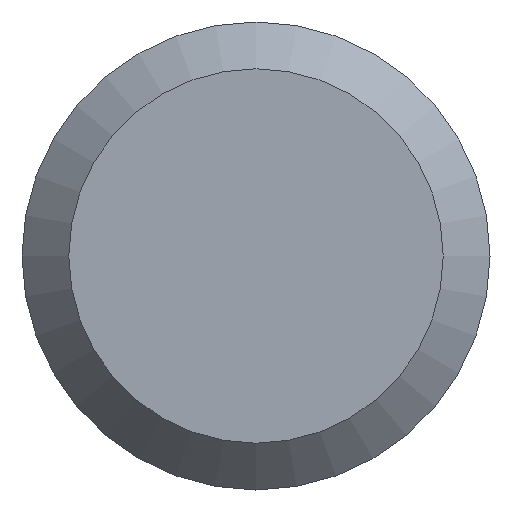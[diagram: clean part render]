
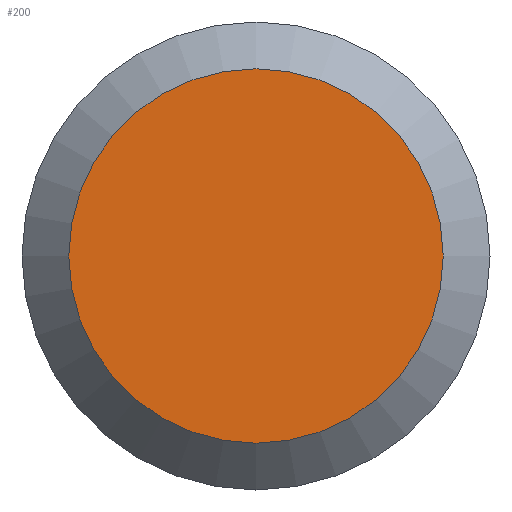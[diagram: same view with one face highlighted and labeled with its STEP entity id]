
A CAD part, left-side view. The second image highlights one B-rep face of the part: STEP entity #200.
In plain terms, the highlighted planar face has unit normal (-1, 0, 0).
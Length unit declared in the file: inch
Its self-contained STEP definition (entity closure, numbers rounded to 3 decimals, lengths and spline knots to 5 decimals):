
#7 = PLANE ( 'NONE',  #35 ) ;
#17 = AXIS2_PLACEMENT_3D ( 'NONE', #47, #162, #146 ) ;
#35 = AXIS2_PLACEMENT_3D ( 'NONE', #76, #196, #221 ) ;
#47 = CARTESIAN_POINT ( 'NONE',  ( 0., 0., 0. ) ) ;
#76 = CARTESIAN_POINT ( 'NONE',  ( 0., 0.05075, 0. ) ) ;
#79 = EDGE_LOOP ( 'NONE', ( #150 ) ) ;
#101 = CIRCLE ( 'NONE', #17, 0.0406 ) ;
#108 = FACE_OUTER_BOUND ( 'NONE', #79, .T. ) ;
#146 = DIRECTION ( 'NONE',  ( 0., 0., -1. ) ) ;
#150 = ORIENTED_EDGE ( 'NONE', *, *, #199, .T. ) ;
#162 = DIRECTION ( 'NONE',  ( -1., 0., 0. ) ) ;
#196 = DIRECTION ( 'NONE',  ( 1., 0., 0. ) ) ;
#199 = EDGE_CURVE ( 'NONE', #248, #248, #101, .T. ) ;
#200 = ADVANCED_FACE ( 'NONE', ( #108 ), #7, .F. ) ;
#216 = CARTESIAN_POINT ( 'NONE',  ( 0., 0., -0.0406 ) ) ;
#221 = DIRECTION ( 'NONE',  ( 0., 0., -1. ) ) ;
#248 = VERTEX_POINT ( 'NONE', #216 ) ;
